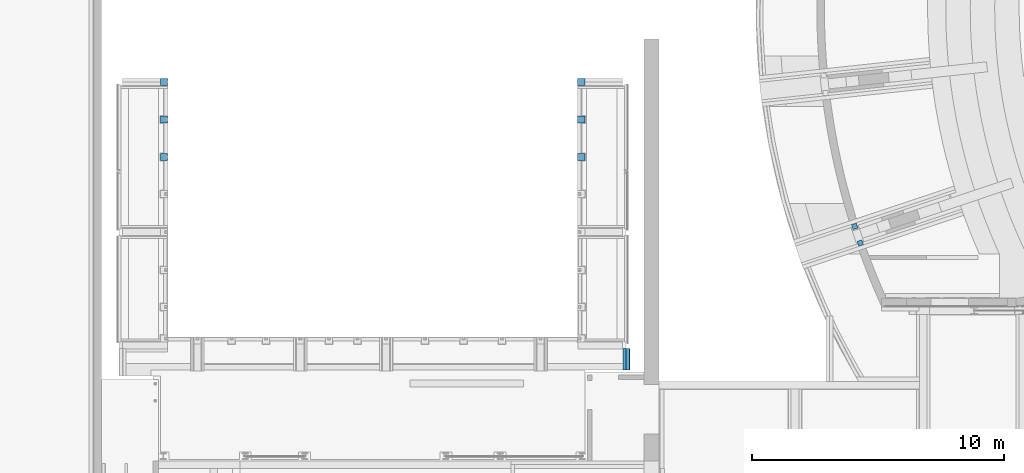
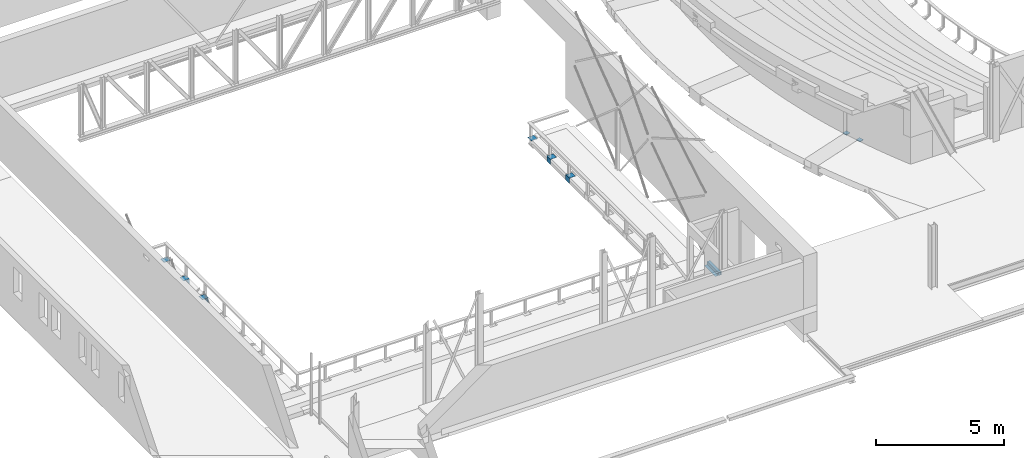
# One storey, part 31 of 68: 9 beams.
"""IFC2X3 building model written with IfcOpenShell, lengths in millimetres."""

from ifc_helpers import new_model, entity, si_unit, converted_unit, derived_unit, direction, frame, frame_2d, origin, origin_2d_with_axis, place, context, subcontext, project, spatial, polyline, circle_curve, parameter, trimmed, segment, composite_curve, rectangle, outline, extrude, source, transform, mapped, material, material_list, type_object, type_shapes, element, save


model = new_model("IFC2X3")

# Units and contexts
model_context = context("Model", 3, precision=0.01, world=origin(), true_north=direction((6.12303176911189e-17, 1.0)))
body_context = subcontext(model_context, "Body", "Model", "MODEL_VIEW")
ifc_project = project(units=[si_unit("LENGTHUNIT", "METRE", prefix="MILLI"), si_unit("AREAUNIT", "SQUARE_METRE", prefix="MILLI"), si_unit("VOLUMEUNIT", "CUBIC_METRE"), converted_unit("PLANEANGLEUNIT", "DEGREE", entity("IfcRatioMeasure", 0.0174532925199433), si_unit("PLANEANGLEUNIT", "RADIAN"), dimensions=[0, 0, 0, 0, 0, 0, 0]), si_unit("MASSUNIT", "GRAM", prefix="KILO"), derived_unit("MASSDENSITYUNIT", [(si_unit("MASSUNIT", "GRAM", prefix="KILO"), 1), (si_unit("LENGTHUNIT", "METRE"), -3)]), derived_unit("MOMENTOFINERTIAUNIT", [(si_unit("LENGTHUNIT", "METRE"), 4)]), si_unit("TIMEUNIT", "SECOND"), si_unit("FREQUENCYUNIT", "HERTZ"), si_unit("THERMODYNAMICTEMPERATUREUNIT", "DEGREE_CELSIUS"), derived_unit("THERMALTRANSMITTANCEUNIT", [(si_unit("MASSUNIT", "GRAM", prefix="KILO"), 1), (si_unit("THERMODYNAMICTEMPERATUREUNIT", "KELVIN"), -1), (si_unit("TIMEUNIT", "SECOND"), -3)]), derived_unit("VOLUMETRICFLOWRATEUNIT", [(si_unit("LENGTHUNIT", "METRE"), 3), (si_unit("TIMEUNIT", "SECOND"), -1)]), si_unit("ELECTRICCURRENTUNIT", "AMPERE"), si_unit("ELECTRICVOLTAGEUNIT", "VOLT"), si_unit("POWERUNIT", "WATT"), si_unit("FORCEUNIT", "NEWTON", prefix="KILO"), si_unit("ILLUMINANCEUNIT", "LUX"), si_unit("LUMINOUSFLUXUNIT", "LUMEN"), si_unit("LUMINOUSINTENSITYUNIT", "CANDELA"), derived_unit("USERDEFINED", [(si_unit("MASSUNIT", "GRAM", prefix="KILO"), -1), (si_unit("LENGTHUNIT", "METRE"), -2), (si_unit("TIMEUNIT", "SECOND"), 3), (si_unit("LUMINOUSFLUXUNIT", "LUMEN"), 1)]), derived_unit("LINEARVELOCITYUNIT", [(si_unit("LENGTHUNIT", "METRE"), 1), (si_unit("TIMEUNIT", "SECOND"), -1)]), si_unit("PRESSUREUNIT", "PASCAL"), derived_unit("USERDEFINED", [(si_unit("LENGTHUNIT", "METRE"), -2), (si_unit("MASSUNIT", "GRAM", prefix="KILO"), 1), (si_unit("TIMEUNIT", "SECOND"), -2)]), derived_unit("LINEARFORCEUNIT", [(si_unit("MASSUNIT", "GRAM", prefix="KILO"), 1), (si_unit("LENGTHUNIT", "METRE"), 1), (si_unit("TIMEUNIT", "SECOND"), -2), (si_unit("LENGTHUNIT", "METRE"), -1)]), derived_unit("PLANARFORCEUNIT", [(si_unit("MASSUNIT", "GRAM", prefix="KILO"), 1), (si_unit("LENGTHUNIT", "METRE"), 1), (si_unit("TIMEUNIT", "SECOND"), -2), (si_unit("LENGTHUNIT", "METRE"), -2)])], contexts=[model_context])

# Site, building, storey
site_placement = place(None, origin())
site = spatial("IfcSite", under=ifc_project, at=site_placement, Name="Theater aan de Parade", CompositionType="ELEMENT")
building_placement = place(site_placement, origin())
building = spatial("IfcBuilding", under=site, at=building_placement, Name="Theater aan de Parade", CompositionType="ELEMENT")
storey_placement = place(building_placement, frame((0.0, 0.0, 8750.0)))
storey = spatial("IfcBuildingStorey", under=building, at=storey_placement, Name="02 tweede verdieping", CompositionType="ELEMENT", Elevation=8750.0)

# Beams
ifc_material_1 = material(Name="00_PBT_MAT_staal_S355")
ifc_material_list_1 = material_list([ifc_material_1, ifc_material_1])
ifc_material_list_2 = material_list([ifc_material_1, ifc_material_1])
beam_type_1 = type_object("IfcBeamType", Name="28_PBT_SF_staal_koker_met_ondergelaste_strip:S355_K150x150x10 + ondergelaste strip", PredefinedType="BEAM", material=ifc_material_list_2)
shared_shape_1 = source(origin(), body_context, "Body", "SweptSolid", [
    extrude(rectangle(XDim=10.0, YDim=275.0, at=frame_2d((-20.833333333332, -1.66666666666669), x_axis=(0.0, 1.0))), frame((-430.993216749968, -41.6666666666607, -78.3333333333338), z_axis=(1.0, 0.0, 0.0), x_axis=(0.0, 1.0, 0.0)), (0.0, 0.0, 1.0), 861.986433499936),
    extrude(outline(composite_curve([segment(polyline([(-60.0, -75.0), (60.0, -75.0)]), True, "CONTINUOUS"), segment(trimmed(circle_curve(frame_2d((60.0, -60.0), x_axis=(0.0, 1.0)), 15.0), [parameter(180.0)], [parameter(270.0)], True, "PARAMETER"), True, "CONTINUOUS"), segment(polyline([(75.0, -60.0), (75.0, 60.0)]), True, "CONTINUOUS"), segment(trimmed(circle_curve(frame_2d((60.0, 60.0), x_axis=(0.0, 1.0)), 15.0), [parameter(270.0)], [parameter(360.0)], True, "PARAMETER"), True, "CONTINUOUS"), segment(polyline([(60.0, 75.0), (-60.0, 75.0)]), True, "CONTINUOUS"), segment(trimmed(circle_curve(frame_2d((-60.0, 60.0), x_axis=(0.0, 1.0)), 15.0), [parameter(0.0)], [parameter(90.0000000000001)], True, "PARAMETER"), True, "CONTINUOUS"), segment(polyline([(-75.0, 60.0), (-75.0, -60.0)]), True, "CONTINUOUS"), segment(trimmed(circle_curve(frame_2d((-60.0, -60.0), x_axis=(0.0, 1.0)), 15.0), [parameter(90.0)], [parameter(180.0)], True, "PARAMETER"), True, "CONTINUOUS")], self_intersect=False), holes=[composite_curve([segment(polyline([(65.0, 55.0), (65.0, -55.0)]), True, "CONTINUOUS"), segment(trimmed(circle_curve(frame_2d((55.0, -55.0), x_axis=(0.0, 1.0)), 10.0), [parameter(180.0)], [parameter(270.0)], True, "PARAMETER"), False, "CONTINUOUS"), segment(polyline([(55.0, -65.0), (-55.0, -65.0)]), True, "CONTINUOUS"), segment(trimmed(circle_curve(frame_2d((-55.0, -55.0), x_axis=(0.0, 1.0)), 10.0), [parameter(90.0)], [parameter(180.0)], True, "PARAMETER"), False, "CONTINUOUS"), segment(polyline([(-65.0, -55.0), (-65.0, 55.0)]), True, "CONTINUOUS"), segment(trimmed(circle_curve(frame_2d((-55.0, 55.0), x_axis=(0.0, 1.0)), 10.0), [parameter(4.07110999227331e-13)], [parameter(90.0000000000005)], True, "PARAMETER"), False, "CONTINUOUS"), segment(polyline([(-55.0, 65.0), (55.0, 65.0)]), True, "CONTINUOUS"), segment(trimmed(circle_curve(frame_2d((55.0, 55.0), x_axis=(0.0, 1.0)), 10.0), [parameter(270.0)], [parameter(0.0)], True, "PARAMETER"), False, "CONTINUOUS")], self_intersect=False)]), frame((-430.993216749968, 0.0, 0.0), z_axis=(1.0, 0.0, 0.0), x_axis=(0.0, 0.0, 1.0)), (0.0, 0.0, 1.0), 861.986433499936),
])
type_shapes(beam_type_1, [shared_shape_1])
beam_1_placement = place(storey_placement, frame((36218.8570032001, 18527.2990817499, -225.0), z_axis=(0.0, 0.0, 1.0), x_axis=(0.0, -1.0, 0.0)))
element("IfcBeam", 1, at=beam_1_placement, inside=storey, type_object=beam_type_1, material=ifc_material_list_1, Name="28_PBT_SF_staal_koker_met_ondergelaste_strip:S355_K150x150x10 + ondergelaste strip", ObjectType="28_PBT_SF_staal_koker_met_ondergelaste_strip:S355_K150x150x10 + ondergelaste strip", context=body_context, shape_type="MappedRepresentation", body=[
    mapped(shared_shape_1, transform((0.0, 0.0, 0.0), scale=1.0)),
])
ifc_material_2 = material(Name="00_PBT_MAT_staal")
beam_type_2 = type_object("IfcBeamType", Name="28_PBT_SF_staal_strip:strip 200x30_opgelaste plaat", PredefinedType="NOTDEFINED")
beam_2_placement = place(storey_placement, frame((45112.7290422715, 23760.6704931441, 0.0), z_axis=(0.0, 0.0, 1.0), x_axis=(0.948323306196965, 0.317305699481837, 0.0)))
element("IfcBeam", 2, at=beam_2_placement, inside=storey, type_object=beam_type_2, material=ifc_material_2, Name="28_PBT_SF_staal_strip:strip 200x30_opgelaste plaat", ObjectType="28_PBT_SF_staal_strip:strip 200x30_opgelaste plaat", context=body_context, shape_type="SweptSolid", body=[
    extrude(rectangle(XDim=29.9999999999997, YDim=199.999999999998, at=frame_2d((0.0, -2.05346850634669e-12), x_axis=(1.0, 0.0))), frame((0.0, 0.0, -140.0), z_axis=(1.0, 0.0, 0.0), x_axis=(0.0, 0.0, -1.0)), (0.0, 0.0, 1.0), 200.000000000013),
])
beam_3_placement = place(storey_placement, frame((45334.8430319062, 23096.8441788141, 0.0), z_axis=(0.0, 0.0, 1.0), x_axis=(0.948323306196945, 0.317305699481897, 0.0)))
element("IfcBeam", 3, at=beam_3_placement, inside=storey, type_object=beam_type_2, material=ifc_material_2, Name="28_PBT_SF_staal_strip:strip 200x30_opgelaste plaat", ObjectType="28_PBT_SF_staal_strip:strip 200x30_opgelaste plaat", context=body_context, shape_type="SweptSolid", body=[
    extrude(rectangle(XDim=29.9999999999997, YDim=199.999999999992, at=origin_2d_with_axis()), frame((0.0, 0.0, -140.0), z_axis=(1.0, 0.0, 0.0), x_axis=(0.0, 0.0, -1.0)), (0.0, 0.0, 1.0), 200.000000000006),
])
beam_type_3 = type_object("IfcBeamType", Name="28_PBT_SF_staal_voetplaat_vloerrand:voetplaat_280x280x15_geen kopplaat", PredefinedType="NOTDEFINED")
beam_4_placement = place(storey_placement, origin())
element("IfcBeam", 4, at=beam_4_placement, inside=storey, type_object=beam_type_3, material=ifc_material_1, Name="28_PBT_SF_staal_voetplaat_vloerrand:voetplaat_280x280x15_geen kopplaat", ObjectType="28_PBT_SF_staal_voetplaat_vloerrand:voetplaat_280x280x15_geen kopplaat", context=body_context, shape_type="SweptSolid", body=[
    extrude(rectangle(XDim=15.0000000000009, YDim=280.000000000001, at=origin_2d_with_axis()), frame((17695.8570032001, 29518.2922984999, -62.500000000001), z_axis=(1.0, 0.0, 0.0), x_axis=(0.0, 0.0, -1.0)), (0.0, 0.0, 1.0), 279.999999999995),
])
beam_5_placement = place(storey_placement, origin())
element("IfcBeam", 5, at=beam_5_placement, inside=storey, type_object=beam_type_3, material=ifc_material_1, Name="28_PBT_SF_staal_voetplaat_vloerrand:voetplaat_280x280x15_geen kopplaat", ObjectType="28_PBT_SF_staal_voetplaat_vloerrand:voetplaat_280x280x15_geen kopplaat", context=body_context, shape_type="SweptSolid", body=[
    extrude(rectangle(XDim=15.0000000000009, YDim=279.999999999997, at=frame_2d((-4.32009983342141e-12, 0.0), x_axis=(0.0, 1.0))), frame((34231.8569737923, 29518.2922984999, -62.500000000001), z_axis=(1.0, 0.0, 0.0), x_axis=(0.0, -1.0, 0.0)), (0.0, 0.0, 1.0), 279.999999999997),
])
beam_type_4 = type_object("IfcBeamType", Name="28_PBT_SF_staal_voetplaat_vloerrand:voetplaat_280x280x15_kopplaat_280x210x15", PredefinedType="BEAM", material=ifc_material_1)
shared_shape_2 = source(origin(), body_context, "Body", "SweptSolid", [
    extrude(rectangle(XDim=15.0, YDim=280.0, at=frame_2d((1.64535052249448e-12, 0.0), x_axis=(1.0, 0.0))), frame((0.0, 7.50000000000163, -245.0), z_axis=(0.0, 0.0, 1.0), x_axis=(0.0, -1.0, 0.0)), (0.0, 0.0, 1.0), 229.999999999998),
    extrude(rectangle(XDim=279.999999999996, YDim=280.0, at=frame_2d((-1.4210854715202e-14, 1.4210854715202e-14), x_axis=(1.0, 0.0))), frame((0.0, -125.0, -15.0), z_axis=(0.0, 0.0, 1.0), x_axis=(0.0, -1.0, 0.0)), (0.0, 0.0, 1.0), 15.0000000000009),
])
type_shapes(beam_type_4, [shared_shape_2])
for number, where, z_axis, x_axis, name in (
    (6, (17960.8570032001, 26543.2922984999, -30.0), (0.0, 0.0, 1.0), (0.0, -1.0, 0.0), "28_PBT_SF_staal_voetplaat_vloerrand:voetplaat_280x280x15_kopplaat_280x210x15"),
    (7, (17960.8570032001, 28018.2922984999, -30.0), (0.0, 0.0, 1.0), (0.0, -1.0, 0.0), "28_PBT_SF_staal_voetplaat_vloerrand:voetplaat_280x280x15_kopplaat_280x210x15"),
):
    element("IfcBeam", number, at=place(storey_placement, frame(where, z_axis=z_axis, x_axis=x_axis)), inside=storey, type_object=beam_type_4, material=ifc_material_1, Name=name, ObjectType="28_PBT_SF_staal_voetplaat_vloerrand:voetplaat_280x280x15_kopplaat_280x210x15", context=body_context, shape_type="MappedRepresentation", body=[
        mapped(shared_shape_2, transform((0.0, 0.0, 0.0), scale=1.0)),
    ])
beam_type_5 = type_object("IfcBeamType", Name="28_PBT_SF_staal_voetplaat_vloerrand:voetplaat_280x280x15_kopplaat_280x210x15", PredefinedType="BEAM", material=ifc_material_1)
shared_shape_3 = source(origin(), body_context, "Body", "SweptSolid", [
    extrude(rectangle(XDim=15.0000000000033, YDim=280.0, at=frame_2d((8.22453216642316e-13, 0.0), x_axis=(1.0, 0.0))), frame((0.0, -7.50000000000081, -245.0), z_axis=(0.0, 0.0, 1.0), x_axis=(0.0, -1.0, 0.0)), (0.0, 0.0, 1.0), 229.999999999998),
    extrude(rectangle(XDim=279.999999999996, YDim=280.000000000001, at=origin_2d_with_axis()), frame((0.0, 125.0, -15.0), z_axis=(0.0, 0.0, 1.0), x_axis=(0.0, -1.0, 0.0)), (0.0, 0.0, 1.0), 15.0000000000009),
])
type_shapes(beam_type_5, [shared_shape_3])
for number, where, z_axis, x_axis, name in (
    (8, (34246.8569737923, 26543.2922984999, -30.0), (0.0, 0.0, 1.0), (0.0, -1.0, 0.0), "28_PBT_SF_staal_voetplaat_vloerrand:voetplaat_280x280x15_kopplaat_280x210x15"),
    (9, (34246.8569737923, 28018.2922984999, -30.0), (0.0, 0.0, 1.0), (0.0, -1.0, 0.0), "28_PBT_SF_staal_voetplaat_vloerrand:voetplaat_280x280x15_kopplaat_280x210x15"),
):
    element("IfcBeam", number, at=place(storey_placement, frame(where, z_axis=z_axis, x_axis=x_axis)), inside=storey, type_object=beam_type_5, material=ifc_material_1, Name=name, ObjectType="28_PBT_SF_staal_voetplaat_vloerrand:voetplaat_280x280x15_kopplaat_280x210x15", context=body_context, shape_type="MappedRepresentation", body=[
        mapped(shared_shape_3, transform((0.0, 0.0, 0.0), scale=1.0)),
    ])

save(model, "model.ifc")
